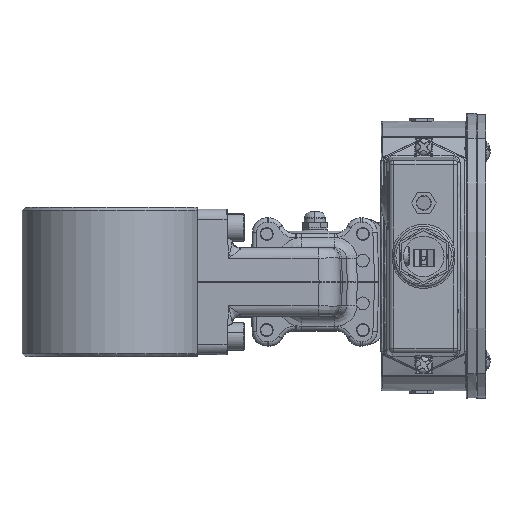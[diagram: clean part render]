
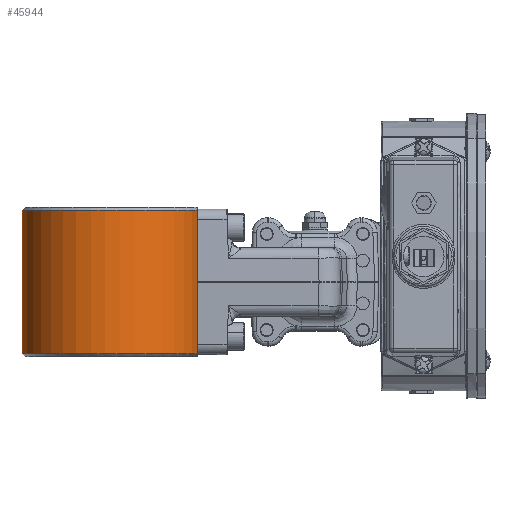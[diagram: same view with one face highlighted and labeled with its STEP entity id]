
A CAD part, front view. The second image highlights one B-rep face of the part: STEP entity #45944.
In plain terms, the highlighted cylindrical face has radius 42 mm (diameter 84 mm), a partial arc.
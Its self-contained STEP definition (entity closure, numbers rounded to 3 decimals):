
#2282 = EDGE_CURVE ( 'NONE', #69177, #59827, #38537, .T. ) ;
#5648 = EDGE_CURVE ( 'NONE', #59827, #63804, #60161, .T. ) ;
#9590 = EDGE_LOOP ( 'NONE', ( #82112, #86967, #100939, #36193 ) ) ;
#12348 = DIRECTION ( 'NONE',  ( 0., 0., 1. ) ) ;
#21524 = DIRECTION ( 'NONE',  ( 0., 0., -1. ) ) ;
#28012 = CARTESIAN_POINT ( 'NONE',  ( -137.19, -67.693, 55.968 ) ) ;
#29914 = AXIS2_PLACEMENT_3D ( 'NONE', #75123, #75102, #74989 ) ;
#32775 = CYLINDRICAL_SURFACE ( 'NONE', #34663, 42. ) ;
#34663 = AXIS2_PLACEMENT_3D ( 'NONE', #66110, #50824, #58616 ) ;
#36193 = ORIENTED_EDGE ( 'NONE', *, *, #2282, .T. ) ;
#38537 = LINE ( 'NONE', #49902, #59270 ) ;
#40075 = CARTESIAN_POINT ( 'NONE',  ( -137.19, -67.693, -11.032 ) ) ;
#41319 = LINE ( 'NONE', #68569, #59611 ) ;
#45944 = ADVANCED_FACE ( 'NONE', ( #74404 ), #32775, .T. ) ;
#47996 = EDGE_CURVE ( 'NONE', #63804, #66710, #41319, .T. ) ;
#48290 = CARTESIAN_POINT ( 'NONE',  ( -55.19, -80.5, -11.032 ) ) ;
#49891 = CARTESIAN_POINT ( 'NONE',  ( -55.19, -80.5, 55.968 ) ) ;
#49902 = CARTESIAN_POINT ( 'NONE',  ( -55.19, -80.5, 57.468 ) ) ;
#50824 = DIRECTION ( 'NONE',  ( 0., 0., -1. ) ) ;
#50943 = DIRECTION ( 'NONE',  ( 0., 0., 1. ) ) ;
#57429 = CIRCLE ( 'NONE', #90988, 42. ) ;
#58616 = DIRECTION ( 'NONE',  ( -1., 0., 0. ) ) ;
#59270 = VECTOR ( 'NONE', #50943, 1000. ) ;
#59455 = CARTESIAN_POINT ( 'NONE',  ( -95.19, -67.693, -11.032 ) ) ;
#59611 = VECTOR ( 'NONE', #21524, 1000. ) ;
#59827 = VERTEX_POINT ( 'NONE', #49891 ) ;
#60161 = CIRCLE ( 'NONE', #29914, 42. ) ;
#63804 = VERTEX_POINT ( 'NONE', #28012 ) ;
#66110 = CARTESIAN_POINT ( 'NONE',  ( -95.19, -67.693, 57.468 ) ) ;
#66710 = VERTEX_POINT ( 'NONE', #40075 ) ;
#67330 = DIRECTION ( 'NONE',  ( -1., 0., 0. ) ) ;
#68569 = CARTESIAN_POINT ( 'NONE',  ( -137.19, -67.693, 57.468 ) ) ;
#69177 = VERTEX_POINT ( 'NONE', #48290 ) ;
#70819 = EDGE_CURVE ( 'NONE', #66710, #69177, #57429, .T. ) ;
#74404 = FACE_OUTER_BOUND ( 'NONE', #9590, .T. ) ;
#74989 = DIRECTION ( 'NONE',  ( -1., 0., 0. ) ) ;
#75102 = DIRECTION ( 'NONE',  ( 0., 0., -1. ) ) ;
#75123 = CARTESIAN_POINT ( 'NONE',  ( -95.19, -67.693, 55.968 ) ) ;
#82112 = ORIENTED_EDGE ( 'NONE', *, *, #5648, .T. ) ;
#86967 = ORIENTED_EDGE ( 'NONE', *, *, #47996, .T. ) ;
#90988 = AXIS2_PLACEMENT_3D ( 'NONE', #59455, #12348, #67330 ) ;
#100939 = ORIENTED_EDGE ( 'NONE', *, *, #70819, .T. ) ;
